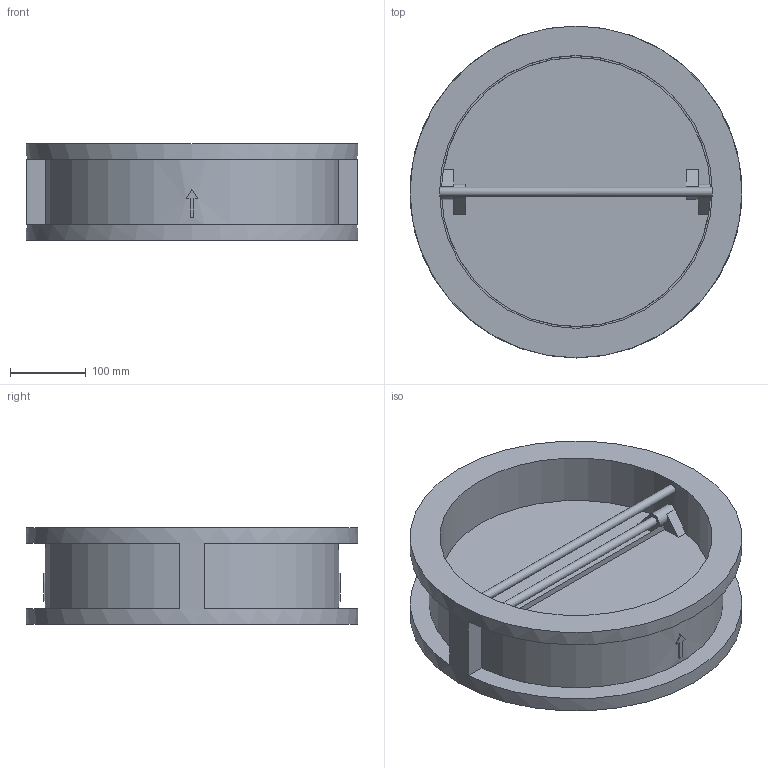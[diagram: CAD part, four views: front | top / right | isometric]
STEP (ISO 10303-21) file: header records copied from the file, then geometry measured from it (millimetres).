
FILE_DESCRIPTION(('STEP AP203'), '1');
FILE_NAME('孰囡囗 钺疣蝽 溻篚耱忸瘅囹 戾骠豚眦邂 010C.Y DN350', '', ('UNSPECIFIED'), ('UNSPECIFIED'), 'ASCON STEP Converter 1.6', 'ASCON Math Kernel', '');
FILE_SCHEMA(('CONFIG_CONTROL_DESIGN'));
Length unit declared in the file: millimetre
Bounding box: 438 x 438 x 127 mm (x, y, z)
Volume: 5838821.9 mm3; surface area: 734774.6 mm2
Topology: 1 solids, 1 shells, 77 faces, 207 edges, 136 vertices
Faces by surface type: plane 57, cylinder 16, cone 4
Full cylindrical faces by diameter (mm): 12 x4, 360 x1, 438 x1
Entity records: 4247 total; most frequent: CARTESIAN_POINT 1686, ORIENTED_EDGE 400, DIRECTION 374, EDGE_CURVE 200, VERTEX_POINT 136, LINE 126, VECTOR 126, AXIS2_PLACEMENT_3D 124
